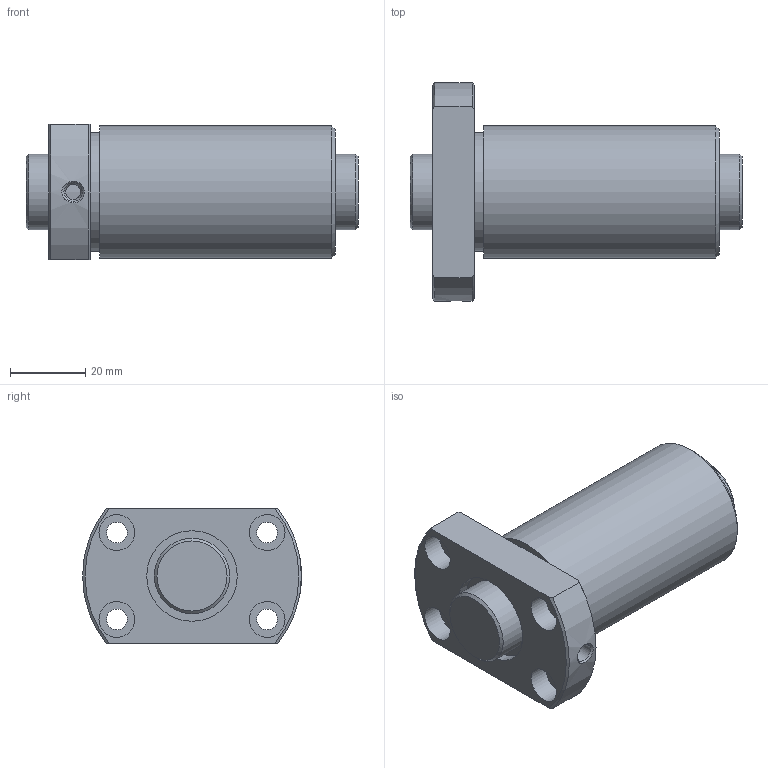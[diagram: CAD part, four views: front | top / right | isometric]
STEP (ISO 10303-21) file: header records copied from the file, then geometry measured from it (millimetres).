
FILE_DESCRIPTION(/* description */ ('STEP AP203'),/* implementation_level */ '2;1');
FILE_NAME(/* name */ 'DIK2006-6RRG0+88LC0_000',/* time_stamp */ '2025-01-13T09:47:05+01:00',/* author */ ('License CC BY-ND 4.0'),/* organization */ ('CADENAS'),/* preprocessor_version */ 'ST-DEVELOPER v19.3',/* originating_system */ 'PARTsolutions',/* authorisation */ ' ');
FILE_SCHEMA (('CONFIG_CONTROL_DESIGN'));
Length unit declared in the file: millimetre
Products named in the file (3): DIK2006-6RRG0+88LC0_000; DIK 2006-6RR08800 Shaft; DIK 2006-6RR Nut
Assembly tree (2 placements, depth 2):
  DIK2006-6RRG0+88LC0_000
    DIK 2006-6RR08800 Shaft
    DIK 2006-6RR Nut
Bounding box: 88 x 58 x 36 mm (x, y, z)
Volume: 83997.8 mm3; surface area: 24502.9 mm2
Topology: 2 solids, 2 shells, 41 faces, 83 edges, 54 vertices
Faces by surface type: cylinder 18, plane 14, cone 9
Full cylindrical faces by diameter (mm): 4 x1, 4.917 x1, 5.5 x4, 9.5 x4, 20 x2, 24 x2, 31.5 x1, 35 x1
Entity records: 1087 total; most frequent: CARTESIAN_POINT 200, DIRECTION 180, ORIENTED_EDGE 120, AXIS2_PLACEMENT_3D 86, EDGE_LOOP 82, FACE_BOUND 82, EDGE_CURVE 60, VERTEX_POINT 52
